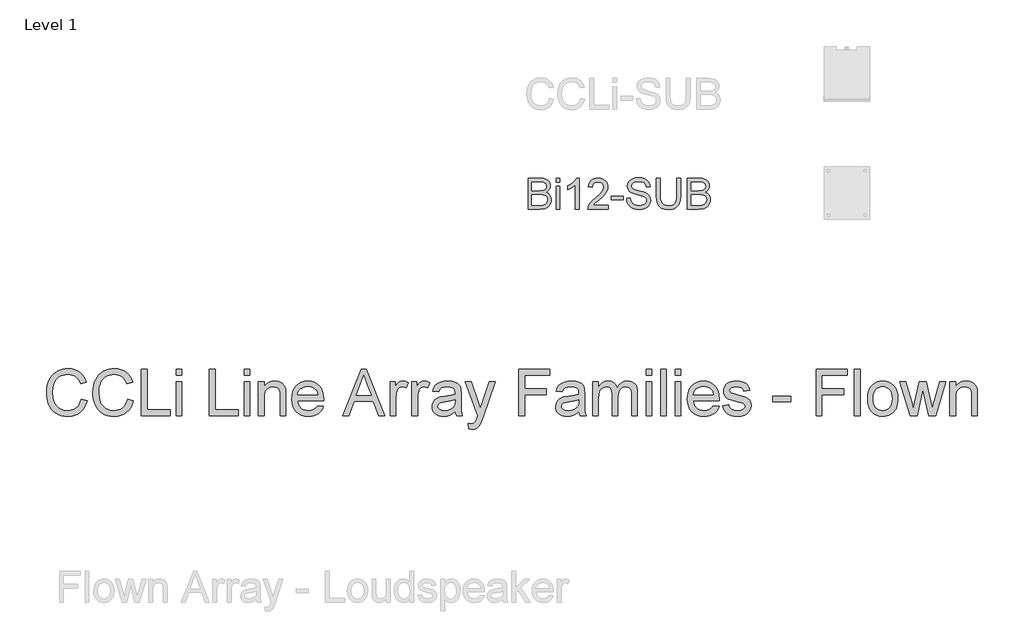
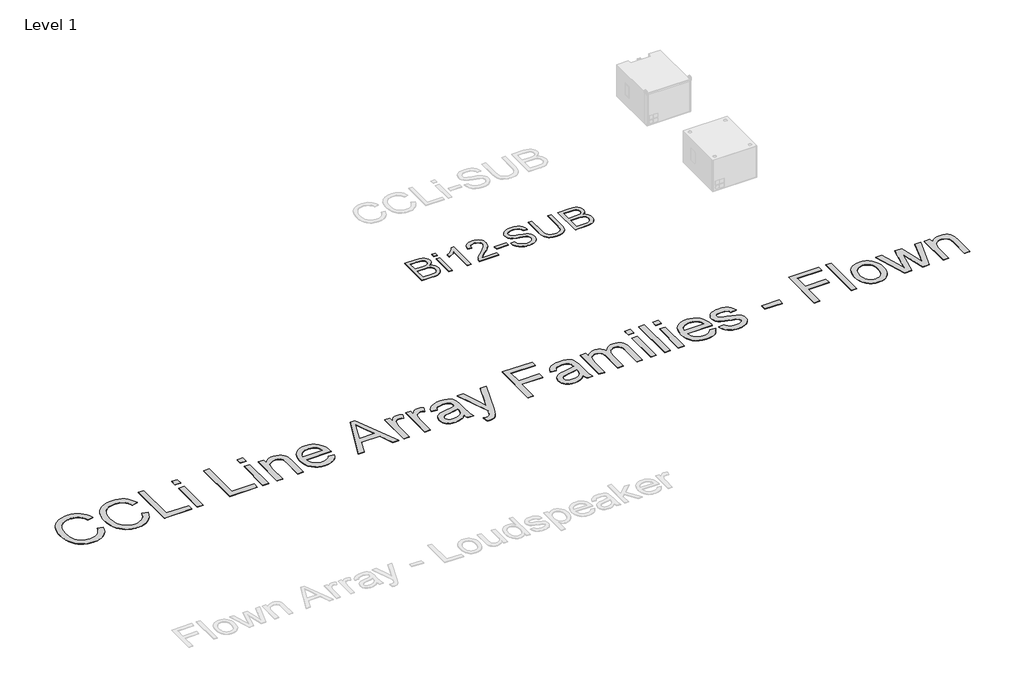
# One storey, part 28 of 31: 2 proxies.
"""IFC4 building model written with IfcOpenShell, lengths in millimetres."""

import ifcopenshell
import ifcopenshell.guid

model = None  # the IFC model being written
_history = None  # IfcOwnerHistory: only IFC2X3 demands one
_inside = {}  # id of a spatial element -> (the spatial element, [elements in it])
_under = {}  # id of a project, library or spatial element -> (it, [spatial elements below it])
_declared = {}  # id of a project -> (the project, [libraries it declares])
_typed = {}  # id of a type object -> (the type object, [elements of that type])
_made_of = {}  # id of a material, layer set ... -> (it, [elements and type objects made of it])


def new_model(schema):
    """Start an empty IFC model of exactly this schema.

    Asked for "IFC4X3", IfcOpenShell would pick the latest addendum, in which some entities
    have other attributes; the version numbers below select the first issue.
    IFC2X3 requires an IfcOwnerHistory on every rooted entity: one is made here for all.
    """
    global model, _history
    if schema == "IFC4X3":
        model = ifcopenshell.file(schema_version=(4, 3, 0, 0))
    else:
        model = ifcopenshell.file(schema=schema)
    _inside.clear()
    _under.clear()
    _declared.clear()
    _typed.clear()
    _made_of.clear()
    _history = None
    if model.schema == "IFC2X3":
        org = make("IfcOrganization", Name="unknown")
        user = make(
            "IfcPersonAndOrganization",
            ThePerson=make("IfcPerson", FamilyName="unknown"),
            TheOrganization=org,
        )
        app = make(
            "IfcApplication",
            ApplicationDeveloper=org,
            Version="unknown",
            ApplicationFullName="unknown",
            ApplicationIdentifier="unknown",
        )
        _history = make(
            "IfcOwnerHistory",
            OwningUser=user,
            OwningApplication=app,
            ChangeAction="ADDED",
            CreationDate=0,
        )
    return model


def make(cls, **values):
    """One entity of the class cls with the attributes given. An attribute that is None is left unset."""
    return model.create_entity(
        cls, **{name: value for name, value in values.items() if value is not None}
    )


def rooted(cls, **values):
    """An entity with a GlobalId (a new one), such as an element, a storey or a relation."""
    return make(cls, GlobalId=ifcopenshell.guid.new(), OwnerHistory=_history, **values)


def si_unit(unit_type, name, prefix=None):
    """IfcSIUnit, for example si_unit("LENGTHUNIT", "METRE", prefix="MILLI")."""
    return make("IfcSIUnit", UnitType=unit_type, Prefix=prefix, Name=name)


def assignment(units):
    """IfcUnitAssignment: the units of a project."""
    return None if units is None else make("IfcUnitAssignment", Units=units)


def point(xyz):
    """IfcCartesianPoint."""
    return None if xyz is None else make("IfcCartesianPoint", Coordinates=xyz)


def direction(xyz):
    """IfcDirection."""
    return None if xyz is None else make("IfcDirection", DirectionRatios=xyz)


def frame(location, z_axis=None, x_axis=None):
    """IfcAxis2Placement3D, a coordinate frame: its origin and axes. An axis left out is left unset."""
    return make(
        "IfcAxis2Placement3D",
        Location=point(location),
        Axis=direction(z_axis),
        RefDirection=direction(x_axis),
    )


def origin():
    """The frame at (0, 0, 0) with its axes left unset."""
    return frame((0.0, 0.0, 0.0))


def origin_with_axes():
    """The frame at (0, 0, 0) with the z axis (0, 0, 1) and the x axis (1, 0, 0) written out."""
    return frame((0.0, 0.0, 0.0), z_axis=(0.0, 0.0, 1.0), x_axis=(1.0, 0.0, 0.0))


def place(relative_to, where):
    """IfcLocalPlacement: puts the frame where relative to a parent placement (None: the world)."""
    return make(
        "IfcLocalPlacement", PlacementRelTo=relative_to, RelativePlacement=where
    )


def context(
    kind, dimensions, precision=None, world=None, true_north=None, identifier=None
):
    """IfcGeometricRepresentationContext, for example the 3D "Model" context."""
    return make(
        "IfcGeometricRepresentationContext",
        ContextIdentifier=identifier,
        ContextType=kind,
        CoordinateSpaceDimension=dimensions,
        Precision=precision,
        WorldCoordinateSystem=world,
        TrueNorth=true_north,
    )


def project(units=None, contexts=None):
    """IfcProject with its units and contexts."""
    return rooted(
        "IfcProject",
        Name="project",
        RepresentationContexts=contexts,
        UnitsInContext=assignment(units),
    )


def spatial(cls, under=None, at=None, **own):
    """A site, building, storey or space (cls), placed at a placement, below another one or the project."""
    s = rooted(cls, ObjectPlacement=at, **own)
    if under is not None:
        _under.setdefault(under.id(), (under, []))[1].append(s)
    return s


def polyline(points):
    """IfcPolyline through the points."""
    return make("IfcPolyline", Points=[point(p) for p in points])


def outline(outer, holes=None, kind="AREA"):
    """IfcArbitraryClosedProfileDef: a profile drawn as a closed curve; with holes, ...WithVoids."""
    if holes is None:
        return make("IfcArbitraryClosedProfileDef", ProfileType=kind, OuterCurve=outer)
    return make(
        "IfcArbitraryProfileDefWithVoids",
        ProfileType=kind,
        OuterCurve=outer,
        InnerCurves=holes,
    )


def extrude(swept, where, along, depth):
    """IfcExtrudedAreaSolid: the profile swept, set in the frame where, extruded along a direction by depth."""
    return make(
        "IfcExtrudedAreaSolid",
        SweptArea=swept,
        Position=where,
        ExtrudedDirection=direction(along),
        Depth=depth,
    )


def shape(context_of_items, identifier, shape_type, items):
    """IfcShapeRepresentation: the items that make up one representation, for example the "Body"."""
    return make(
        "IfcShapeRepresentation",
        ContextOfItems=context_of_items,
        RepresentationIdentifier=identifier,
        RepresentationType=shape_type,
        Items=items,
    )


def made_of(thing, what):
    """Note that an element or type object is made of a material, layer set ...; save() writes the relation."""
    if what is not None:
        _made_of.setdefault(what.id(), (what, []))[1].append(thing)
    return thing


def element(
    cls,
    number,
    at=None,
    inside=None,
    cuts=None,
    type_object=None,
    material=None,
    context=None,
    identifier="Body",
    shape_type=None,
    held_by="IfcProductDefinitionShape",
    body=None,
    shapes=None,
    **own,
):
    """One element of the class cls, such as IfcWall. Its Tag is "e" and its number.

    at: its placement. inside: the storey or other place that contains it. cuts: it is an
    opening in that element (IfcRelVoidsElement). A single representation is given by context,
    identifier, shape_type and body (its items); several are given by shapes. held_by: the class
    of the entity that holds the representations. save() writes the other relations.
    """
    e = rooted(cls, Tag="e%d" % number, ObjectPlacement=at, **own)
    if body is not None:
        shapes = [shape(context, identifier, shape_type, body)]
    if shapes is not None:
        e.Representation = make(held_by, Representations=shapes)
    if inside is not None:
        _inside.setdefault(inside.id(), (inside, []))[1].append(e)
    if cuts is not None:
        rooted(
            "IfcRelVoidsElement", RelatingBuildingElement=cuts, RelatedOpeningElement=e
        )
    if type_object is not None:
        _typed.setdefault(type_object.id(), (type_object, []))[1].append(e)
    return made_of(e, material)


def aggregate(whole, parts):
    """IfcRelAggregates: a whole, such as a stair, and the parts it consists of."""
    return rooted("IfcRelAggregates", RelatingObject=whole, RelatedObjects=parts)


def save(model, path):
    """Write the relations noted so far, then the file.

    IfcRelAggregates (storeys below a building ...), IfcRelContainedInSpatialStructure (elements
    in a storey), IfcRelDefinesByType, IfcRelAssociatesMaterial and IfcRelDeclares: one each for
    every whole, place, type object, material and project.
    """
    for whole, parts in _under.values():
        aggregate(whole, parts)
    for where, things in _inside.values():
        rooted(
            "IfcRelContainedInSpatialStructure",
            RelatedElements=things,
            RelatingStructure=where,
        )
    for kind, things in _typed.values():
        rooted("IfcRelDefinesByType", RelatedObjects=things, RelatingType=kind)
    for what, things in _made_of.values():
        rooted("IfcRelAssociatesMaterial", RelatedObjects=things, RelatingMaterial=what)
    for by, libraries in _declared.values():
        rooted("IfcRelDeclares", RelatingContext=by, RelatedDefinitions=libraries)
    model.write(path)


model = new_model("IFC4")

# Units and contexts
model_context = context("Model", 3, world=origin())
ifc_project = project(units=[si_unit("LENGTHUNIT", "METRE", prefix="MILLI")], contexts=[model_context])

# Site, building, storey
site = spatial("IfcSite", under=ifc_project)
building = spatial("IfcBuilding", under=site)
storey = spatial("IfcBuildingStorey", under=building, Name="Level 1", Elevation=0.0)

# Proxies
placement = place(None, origin())
element("IfcBuildingElementProxy", 1, Name="400mm Arial", ObjectType="400mm Arial", at=placement, inside=storey, context=model_context, shape_type="SweptSolid", body=[
    extrude(outline(polyline([(7821.2923383, 11781.029306), (7821.2923383, 12182.8545466), (7974.6255539, 12182.8545466), (8016.7970933, 12179.8992279), (8049.7225318, 12171.0332718), (8074.9592367, 12156.0359491), (8094.064575, 12134.6865307), (8106.0943162, 12109.5724531), (8110.10423, 12083.2811532), (8106.7319784, 12059.0867807), (8096.6152235, 12036.3394106), (8079.680389, 12016.4369947), (8055.8538984, 12000.7774844), (8084.3157021, 11985.9150518), (8105.3462895, 11963.3025718), (8118.3325239, 11934.436098), (8122.6612688, 11900.8116836), (8119.7059501, 11872.7913383), (8110.839994, 11846.8066067), (8097.6085049, 11824.7091615), (8081.5565872, 11808.3506755), (8061.8994259, 11796.5048752), (8037.8522061, 11787.9454875), (8008.630113, 11782.7583513), (7973.4483315, 11781.029306), (7821.2923383, 11781.029306)]), holes=[polyline([(7871.5204934, 12019.6130426), (7963.2457375, 12019.6130426), (8016.809356, 12023.9295247), (8035.559075, 12031.3730037), (8049.0358188, 12042.5198281), (8057.1660109, 12057.1983197), (8059.8760749, 12075.2368002), (8057.3499519, 12092.7479832), (8049.7715828, 12108.0028233), (8037.4843241, 12119.9099372), (8020.8315325, 12127.3779417), (7995.2759966, 12131.314279), (7956.2805051, 12132.6263915), (7871.5204934, 12132.6263915), (7871.5204934, 12019.6130426)]), polyline([(7871.5204934, 11831.257461), (7974.527452, 11831.257461), (8011.8061609, 11833.2194984), (8043.3459106, 11844.1578563), (8054.9219307, 11853.5878982), (8064.2416079, 11866.4760307), (8070.3852372, 11882.2459056), (8072.4331137, 11900.3211743), (8070.029618, 11921.3149735), (8062.8191309, 11939.3657167), (8050.2253039, 11953.4801226), (8031.6717886, 11962.6649097), (8005.3927514, 11967.7048931), (7969.6223588, 11969.3848875), (7871.5204934, 11969.3848875), (7871.5204934, 11831.257461)])]), origin_with_axes(), (0.0, 0.0, 1.0), 5.0),
    extrude(outline(polyline([(8185.4464626, 11781.029306), (8185.4464626, 12076.119717), (8235.6746177, 12076.119717), (8235.6746177, 11781.029306), (8185.4464626, 11781.029306)])), origin_with_axes(), (0.0, 0.0, 1.0), 5.0),
    extrude(outline(polyline([(8185.4464626, 12132.6263915), (8185.4464626, 12182.8545466), (8235.6746177, 12182.8545466), (8235.6746177, 12132.6263915), (8185.4464626, 12132.6263915)])), origin_with_axes(), (0.0, 0.0, 1.0), 5.0),
    extrude(outline(polyline([(8486.815393, 11781.029306), (8436.587238, 11781.029306), (8436.587238, 12094.1704603), (8415.6179642, 12077.2111003), (8389.0078333, 12060.2762658), (8336.1309278, 12034.9169336), (8336.1309278, 12082.3982364), (8375.5801404, 12103.8580195), (8409.7563778, 12129.3890299), (8436.6976026, 12156.5387212), (8454.4417775, 12182.8545466), (8486.815393, 12182.8545466), (8486.815393, 11781.029306)])), origin_with_axes(), (0.0, 0.0, 1.0), 5.0),
    extrude(outline(polyline([(8863.5265561, 11831.257461), (8863.5265561, 11781.029306), (8599.828742, 11781.029306), (8600.932388, 11798.7121672), (8605.2243446, 11815.6592644), (8617.6219678, 11842.7231166), (8635.7830756, 11868.9776283), (8662.0375874, 11896.4584133), (8698.7154223, 11927.2010854), (8752.9044402, 11975.3445758), (8785.3884203, 12010.8819766), (8801.6120163, 12039.723925), (8807.0198817, 12067.7810585), (8801.9063219, 12092.9319242), (8786.5656427, 12113.8398843), (8762.9844068, 12127.9297647), (8733.149177, 12132.6263915), (8701.8178938, 12128.0401293), (8677.4763684, 12114.2813427), (8661.7678072, 12092.4291522), (8656.3354164, 12063.5626783), (8606.1072614, 12069.8411976), (8610.4268091, 12095.7707469), (8618.2841554, 12118.4261465), (8629.6793002, 12137.8073963), (8644.6122435, 12153.9144963), (8662.7396288, 12166.5757683), (8683.7180996, 12175.619534), (8707.5476558, 12181.0457934), (8734.2282975, 12182.8545466), (8761.1480625, 12180.8434583), (8785.1063775, 12174.8101936), (8806.1032423, 12164.7547524), (8824.1386572, 12150.6771347), (8838.6240107, 12133.6196729), (8848.9706918, 12114.6246992), (8855.1787005, 12093.6922137), (8857.2480367, 12070.8222163), (8855.0162193, 12046.799522), (8848.320767, 12023.1937607), (8836.4381785, 11999.1833291), (8818.6449527, 11973.9466242), (8790.2812509, 11943.8170888), (8746.6872344, 11905.1281657), (8688.9052357, 11856.812997), (8666.2437048, 11831.257461), (8863.5265561, 11831.257461)])), origin_with_axes(), (0.0, 0.0, 1.0), 5.0),
    extrude(outline(polyline([(8901.1976724, 11900.3211743), (8901.1976724, 11950.5493293), (9058.160657, 11950.5493293), (9058.160657, 11900.3211743), (8901.1976724, 11900.3211743)])), origin_with_axes(), (0.0, 0.0, 1.0), 5.0),
    extrude(outline(polyline([(9102.1102927, 11919.1567324), (9152.3384478, 11919.1567324), (9158.1019324, 11891.2835399), (9168.5252556, 11868.8795264), (9184.7856398, 11851.0985633), (9208.0603073, 11837.094522), (9236.5098483, 11828.0078368), (9268.2948527, 11824.9789417), (9296.2784098, 11827.2720728), (9320.7793506, 11834.1514661), (9340.6327157, 11845.0407731), (9354.6735451, 11859.3636455), (9363.0244664, 11875.8079707), (9365.8081069, 11893.0616362), (9363.7234422, 11909.8738434), (9357.4694483, 11924.4051822), (9344.7652567, 11936.8028055), (9323.3299991, 11947.2138659), (9250.1950585, 11966.3927806), (9202.1864581, 11979.0847094), (9171.4683115, 11991.1635016), (9146.4645986, 12008.0615479), (9128.7449492, 12028.5403123), (9118.1867359, 12052.1583364), (9114.6673315, 12078.4741618), (9119.0206018, 12107.8924587), (9132.0804126, 12135.3241928), (9153.5034074, 12158.5743349), (9182.9462298, 12175.4478557), (9218.2874268, 12185.7117634), (9257.4055456, 12189.133066), (9299.7855515, 12185.5523479), (9336.8680566, 12174.8101936), (9367.3286858, 12157.1273324), (9389.8430639, 12132.7244934), (9404.0923598, 12103.1222555), (9409.7577425, 12069.8411976), (9359.5295875, 12069.8411976), (9350.3080121, 12099.8113175), (9341.9448281, 12111.6693805), (9331.0800465, 12121.4427788), (9301.0363502, 12134.5393779), (9259.3675829, 12138.9049109), (9216.7177969, 12134.5884288), (9200.4144932, 12129.1928262), (9187.4589156, 12121.6389826), (9170.5363438, 12102.5826952), (9164.8954866, 12079.9456898), (9168.8931376, 12060.6441478), (9180.8860906, 12045.1195276), (9209.2375297, 12031.2381136), (9262.8992501, 12017.0623941), (9318.2777531, 12003.5979131), (9351.7795401, 11991.8502147), (9380.4130221, 11973.6277932), (9400.3890144, 11951.1379405), (9412.1244501, 11924.6259114), (9416.0362619, 11894.3369605), (9411.5358389, 11863.3735592), (9398.0345696, 11834.2495679), (9376.0842773, 11809.1845413), (9346.2367847, 11790.3980341), (9310.3437647, 11778.6625985), (9270.25689, 11774.7507866), (9221.0465418, 11778.9691668), (9180.5427341, 11791.6243074), (9148.2794831, 11812.7652594), (9123.790805, 11842.4410737), (9108.069981, 11878.5916111), (9102.1102927, 11919.1567324)])), origin_with_axes(), (0.0, 0.0, 1.0), 5.0),
    extrude(outline(polyline([(9755.0763087, 12182.8545466), (9805.3044638, 12182.8545466), (9805.3044638, 11951.0398387), (9801.8954239, 11896.7527189), (9791.6683045, 11854.9490615), (9783.4829301, 11837.9958329), (9772.5629662, 11822.6980733), (9742.5192699, 11797.068961), (9723.3771434, 11787.3047597), (9701.4636393, 11780.3303302), (9649.3224978, 11774.7507866), (9598.3217905, 11779.6068289), (9557.5482027, 11794.1749559), (9540.993513, 11804.9753582), (9526.9894717, 11817.9523956), (9515.5360789, 11833.1060681), (9506.6333346, 11850.4363757), (9495.1922046, 11894.0058667), (9491.3784945, 11951.0398387), (9491.3784945, 12182.8545466), (9541.6066496, 12182.8545466), (9541.6066496, 11952.8056722), (9544.0837217, 11907.6665514), (9551.514938, 11876.2371663), (9564.979419, 11854.4708149), (9585.5562853, 11838.3207954), (9612.3871455, 11828.3144051), (9644.6136083, 11824.9789417), (9672.2967284, 11826.6282793), (9695.7001547, 11831.5762921), (9714.823887, 11839.8229802), (9729.6679256, 11851.3683434), (9740.7840932, 11867.6042022), (9748.7242129, 11889.9223765), (9753.4882847, 11918.3228666), (9755.0763087, 11952.8056722), (9755.0763087, 12182.8545466)])), origin_with_axes(), (0.0, 0.0, 1.0), 5.0),
    extrude(outline(polyline([(9893.2037351, 11781.029306), (9893.2037351, 12182.8545466), (10046.5369507, 12182.8545466), (10088.7084901, 12179.8992279), (10121.6339287, 12171.0332718), (10146.8706336, 12156.0359491), (10165.9759718, 12134.6865307), (10178.0057131, 12109.5724531), (10182.0156268, 12083.2811532), (10178.6433752, 12059.0867807), (10168.5266203, 12036.3394106), (10151.5917858, 12016.4369947), (10127.7652953, 12000.7774844), (10156.227099, 11985.9150518), (10177.2576864, 11963.3025718), (10190.2439208, 11934.436098), (10194.5726656, 11900.8116836), (10191.6173469, 11872.7913383), (10182.7513908, 11846.8066067), (10169.5199017, 11824.7091615), (10153.467984, 11808.3506755), (10133.8108227, 11796.5048752), (10109.763603, 11787.9454875), (10080.5415098, 11782.7583513), (10045.3597283, 11781.029306), (9893.2037351, 11781.029306)]), holes=[polyline([(9943.4318902, 11831.257461), (10046.4388489, 11831.257461), (10083.7175577, 11833.2194984), (10115.2573074, 11844.1578563), (10126.8333275, 11853.5878982), (10136.1530048, 11866.4760307), (10142.2966341, 11882.2459056), (10144.3445105, 11900.3211743), (10141.9410148, 11921.3149735), (10134.7305277, 11939.3657167), (10122.1367007, 11953.4801226), (10103.5831855, 11962.6649097), (10077.3041483, 11967.7048931), (10041.5337556, 11969.3848875), (9943.4318902, 11969.3848875), (9943.4318902, 11831.257461)]), polyline([(9943.4318902, 12019.6130426), (10035.1571343, 12019.6130426), (10088.7207528, 12023.9295247), (10107.4704719, 12031.3730037), (10120.9472156, 12042.5198281), (10129.0774077, 12057.1983197), (10131.7874717, 12075.2368002), (10129.2613487, 12092.7479832), (10121.6829796, 12108.0028233), (10109.395721, 12119.9099372), (10092.7429293, 12127.3779417), (10067.1873934, 12131.314279), (10028.1919019, 12132.6263915), (9943.4318902, 12132.6263915), (9943.4318902, 12019.6130426)])]), origin_with_axes(), (0.0, 0.0, 1.0), 5.0),
])
element("IfcBuildingElementProxy", 2, Name="600mm Arial", ObjectType="600mm Arial", at=placement, inside=storey, context=model_context, shape_type="SweptSolid", body=[
    extrude(outline(polyline([(2002.9783305, 9304.2193341), (2078.3205631, 9284.7951648), (2063.4121452, 9237.9407942), (2043.5557146, 9197.0001266), (2018.751271, 9161.9731622), (1988.9988147, 9132.8599008), (1954.9697301, 9109.9730422), (1917.335402, 9093.625286), (1876.0958304, 9083.8166323), (1831.2510151, 9080.5470811), (1785.3071525, 9083.0210875), (1743.8606472, 9090.4431067), (1706.9114993, 9102.8131388), (1674.4597088, 9120.1311837), (1646.0592188, 9142.1397241), (1621.2639723, 9168.5812425), (1600.0739694, 9199.455739), (1582.48921, 9234.7632134), (1568.6798396, 9272.9769557), (1558.8160036, 9312.5702554), (1552.897702, 9353.5431126), (1550.9249348, 9395.8955273), (1553.1552194, 9441.3381508), (1559.8460732, 9483.782536), (1570.9974962, 9523.2286829), (1586.6094884, 9559.6765916), (1606.3325618, 9592.5238552), (1629.8172287, 9621.1680671), (1657.063489, 9645.6092271), (1688.0713426, 9665.8473354), (1721.7877275, 9681.716845), (1757.1595813, 9693.0522089), (1794.1869041, 9699.8534273), (1832.8696959, 9702.1205001), (1875.9624731, 9699.1866412), (1915.4775979, 9690.3850645), (1951.4150703, 9675.7157699), (1983.7748903, 9655.1787575), (2012.023629, 9629.3166533), (2035.6278576, 9598.6720831), (2054.5875759, 9563.2450469), (2068.902784, 9523.0355449), (1993.5605514, 9505.0829035), (1981.6963571, 9534.7111997), (1967.4409298, 9560.0260795), (1950.7942695, 9581.0275429), (1931.7563762, 9597.7155899), (1910.2168854, 9610.4305113), (1886.0654324, 9619.5125981), (1859.3020173, 9624.9618502), (1829.92664, 9626.7782675), (1796.1274817, 9624.7641136), (1765.216197, 9618.7216518), (1737.192786, 9608.6508822), (1712.0572487, 9594.5518047), (1690.1268833, 9577.0590159), (1671.7189879, 9556.807112), (1656.8335627, 9533.7960932), (1645.4706076, 9508.0259595), (1631.0680275, 9452.8804484), (1626.2671674, 9396.0426801), (1631.9509443, 9326.4394066), (1639.0556653, 9295.1694371), (1649.0022747, 9266.2539122), (1661.951721, 9240.2676478), (1678.0649524, 9217.7854594), (1697.3419689, 9198.8073469), (1719.7827706, 9183.3333105), (1744.2975071, 9171.3265619), (1769.7963278, 9162.7503129), (1796.279233, 9157.6045635), (1823.7462224, 9155.8893137), (1856.5015156, 9158.2253643), (1886.6356495, 9165.2335164), (1914.1486242, 9176.9137697), (1939.0404397, 9193.2661244), (1960.7224848, 9214.217004), (1978.6061483, 9239.6928322), (1992.6914302, 9269.6936089), (2002.9783305, 9304.2193341)])), origin_with_axes(), (0.0, 0.0, 1.0), 5.0),
    extrude(outline(polyline([(2605.7161914, 9304.2193341), (2681.058424, 9284.7951648), (2666.1500061, 9237.9407942), (2646.2935755, 9197.0001266), (2621.4891319, 9161.9731622), (2591.7366756, 9132.8599008), (2557.707591, 9109.9730422), (2520.0732629, 9093.625286), (2478.8336913, 9083.8166323), (2433.988876, 9080.5470811), (2388.0450134, 9083.0210875), (2346.5985081, 9090.4431067), (2309.6493602, 9102.8131388), (2277.1975697, 9120.1311837), (2248.7970797, 9142.1397241), (2224.0018332, 9168.5812425), (2202.8118303, 9199.455739), (2185.2270709, 9234.7632134), (2171.4177005, 9272.9769557), (2161.5538645, 9312.5702554), (2155.6355629, 9353.5431126), (2153.6627957, 9395.8955273), (2155.8930803, 9441.3381508), (2162.5839341, 9483.782536), (2173.7353571, 9523.2286829), (2189.3473492, 9559.6765916), (2209.0704227, 9592.5238552), (2232.5550896, 9621.1680671), (2259.8013499, 9645.6092271), (2290.8092035, 9665.8473354), (2324.5255884, 9681.716845), (2359.8974422, 9693.0522089), (2396.924765, 9699.8534273), (2435.6075568, 9702.1205001), (2478.700334, 9699.1866412), (2518.2154588, 9690.3850645), (2554.1529312, 9675.7157699), (2586.5127512, 9655.1787575), (2614.7614899, 9629.3166533), (2638.3657185, 9598.6720831), (2657.3254368, 9563.2450469), (2671.6406449, 9523.0355449), (2596.2984123, 9505.0829035), (2584.434218, 9534.7111997), (2570.1787907, 9560.0260795), (2553.5321304, 9581.0275429), (2534.4942371, 9597.7155899), (2512.9547463, 9610.4305113), (2488.8032933, 9619.5125981), (2462.0398782, 9624.9618502), (2432.6645009, 9626.7782675), (2398.8653426, 9624.7641136), (2367.9540579, 9618.7216518), (2339.9306469, 9608.6508822), (2314.7951096, 9594.5518047), (2292.8647442, 9577.0590159), (2274.4568488, 9556.807112), (2259.5714236, 9533.7960932), (2248.2084685, 9508.0259595), (2233.8058884, 9452.8804484), (2229.0050283, 9396.0426801), (2234.6888052, 9326.4394066), (2241.7935262, 9295.1694371), (2251.7401356, 9266.2539122), (2264.6895819, 9240.2676478), (2280.8028132, 9217.7854594), (2300.0798298, 9198.8073469), (2322.5206315, 9183.3333105), (2347.035368, 9171.3265619), (2372.5341887, 9162.7503129), (2399.0170939, 9157.6045635), (2426.4840833, 9155.8893137), (2459.2393765, 9158.2253643), (2489.3735104, 9165.2335164), (2516.8864851, 9176.9137697), (2541.7783006, 9193.2661244), (2563.4603457, 9214.217004), (2581.3440092, 9239.6928322), (2595.4292911, 9269.6936089), (2605.7161914, 9304.2193341)])), origin_with_axes(), (0.0, 0.0, 1.0), 5.0),
    extrude(outline(polyline([(2784.6539938, 9089.9648601), (2784.6539938, 9692.702721), (2859.9962265, 9692.702721), (2859.9962265, 9165.3070928), (3161.3651569, 9165.3070928), (3161.3651569, 9089.9648601), (2784.6539938, 9089.9648601)])), origin_with_axes(), (0.0, 0.0, 1.0), 5.0),
    extrude(outline(polyline([(3236.7073895, 9089.9648601), (3236.7073895, 9532.6004767), (3312.0496221, 9532.6004767), (3312.0496221, 9089.9648601), (3236.7073895, 9089.9648601)])), origin_with_axes(), (0.0, 0.0, 1.0), 5.0),
    extrude(outline(polyline([(3236.7073895, 9617.3604884), (3236.7073895, 9692.702721), (3312.0496221, 9692.702721), (3312.0496221, 9617.3604884), (3236.7073895, 9617.3604884)])), origin_with_axes(), (0.0, 0.0, 1.0), 5.0),
    extrude(outline(polyline([(3669.925227, 9089.9648601), (3669.925227, 9692.702721), (3745.2674596, 9692.702721), (3745.2674596, 9165.3070928), (4046.6363901, 9165.3070928), (4046.6363901, 9089.9648601), (3669.925227, 9089.9648601)])), origin_with_axes(), (0.0, 0.0, 1.0), 5.0),
    extrude(outline(polyline([(4121.9786227, 9089.9648601), (4121.9786227, 9532.6004767), (4197.3208553, 9532.6004767), (4197.3208553, 9089.9648601), (4121.9786227, 9089.9648601)])), origin_with_axes(), (0.0, 0.0, 1.0), 5.0),
    extrude(outline(polyline([(4121.9786227, 9617.3604884), (4121.9786227, 9692.702721), (4197.3208553, 9692.702721), (4197.3208553, 9617.3604884), (4121.9786227, 9617.3604884)])), origin_with_axes(), (0.0, 0.0, 1.0), 5.0),
    extrude(outline(polyline([(4310.3342042, 9089.9648601), (4310.3342042, 9532.6004767), (4385.6764369, 9532.6004767), (4385.6764369, 9470.7963016), (4411.8512408, 9501.9559065), (4443.2867573, 9524.2127673), (4479.9829863, 9537.5668837), (4521.9399279, 9542.0182558), (4559.0776153, 9538.4314064), (4593.0883057, 9527.670858), (4621.4520076, 9511.07938), (4641.6487291, 9489.9997417), (4655.3523334, 9464.4871253), (4664.2366836, 9434.5967132), (4668.2098091, 9361.7560782), (4668.2098091, 9089.9648601), (4592.8675765, 9089.9648601), (4592.8675765, 9351.6025351), (4590.6970728, 9390.5612384), (4584.1855615, 9418.2627526), (4572.1742143, 9438.1099863), (4553.5042031, 9453.5058478), (4529.5734793, 9463.3834793), (4501.7799945, 9466.6760232), (4478.902333, 9464.8274162), (4457.6525492, 9459.2815951), (4438.0306433, 9450.03856), (4420.0366152, 9437.0983108), (4405.0040372, 9418.9893196), (4394.2664814, 9394.2400584), (4387.823948, 9362.8505271), (4385.6764369, 9324.8207259), (4385.6764369, 9089.9648601), (4310.3342042, 9089.9648601)])), origin_with_axes(), (0.0, 0.0, 1.0), 5.0),
    extrude(outline(polyline([(5081.7091717, 9221.8137672), (5155.5798764, 9212.3959881), (5144.2537094, 9182.8090787), (5128.963614, 9156.7354423), (5109.7095901, 9134.1750789), (5086.4916377, 9115.1279886), (5059.54888, 9099.9988416), (5029.1204405, 9089.192308), (4995.2063191, 9082.7083878), (4957.8065158, 9080.5470811), (4911.0579112, 9084.2764848), (4869.4044723, 9095.464696), (4832.846199, 9114.1117146), (4801.3830914, 9140.2175407), (4776.0820072, 9173.0556073), (4758.0098042, 9211.8993474), (4747.1664824, 9256.7487612), (4743.5520418, 9307.6038485), (4747.2032706, 9360.1833827), (4758.156957, 9406.527317), (4776.413101, 9446.6356515), (4801.9717026, 9480.5083862), (4833.3520368, 9507.4189542), (4869.0733785, 9526.6407884), (4909.1357278, 9538.173889), (4953.5390846, 9542.0182558), (4996.5123002, 9538.183086), (5035.3744344, 9526.6775766), (5070.1254874, 9507.5017276), (5100.7654591, 9480.655539), (5125.7768362, 9446.8563807), (5143.6421056, 9406.8216226), (5154.3612673, 9360.5512646), (5157.9343211, 9308.0453069), (5157.4928627, 9287.7382208), (4818.8942744, 9287.7382208), (4823.2582745, 9257.6730647), (4831.9356911, 9231.3419109), (4844.9265241, 9208.7447593), (4862.2307734, 9189.88161), (4882.891946, 9175.0099804), (4905.9535485, 9164.3873878), (4931.4155811, 9158.0138322), (4959.2780437, 9155.8893137), (4999.3771812, 9159.825651), (5033.1487484, 9171.6346631), (5060.5927452, 9192.0521138), (5081.7091717, 9221.8137672)]), holes=[polyline([(4818.8942744, 9363.0804534), (5082.5920885, 9363.0804534), (5072.4017572, 9402.8852852), (5063.6369687, 9418.5386641), (5052.4257649, 9431.3593517), (5031.8795555, 9446.8103955), (5008.5006547, 9457.8468553), (4982.2890625, 9464.4687312), (4953.244779, 9466.6760232), (4926.7526768, 9464.9147882), (4902.4586696, 9459.631083), (4880.3627572, 9450.8249077), (4860.4649398, 9438.4962624), (4843.7676958, 9423.215364), (4831.2735035, 9405.5524297), (4822.982363, 9385.5074595), (4818.8942744, 9363.0804534)])]), origin_with_axes(), (0.0, 0.0, 1.0), 5.0),
    extrude(outline(polyline([(5408.0940778, 9089.9648601), (5648.6889027, 9692.702721), (5712.8475227, 9692.702721), (5953.2951947, 9089.9648601), (5873.6855309, 9089.9648601), (5804.8180214, 9278.3204417), (5556.4240983, 9278.3204417), (5487.5565888, 9089.9648601), (5408.0940778, 9089.9648601)]), holes=[polyline([(5584.0888243, 9353.6626743), (5777.3004482, 9353.6626743), (5722.8539129, 9501.8455419), (5680.6210599, 9617.3604884), (5643.0970964, 9514.7949882), (5584.0888243, 9353.6626743)])]), origin_with_axes(), (0.0, 0.0, 1.0), 5.0),
    extrude(outline(polyline([(6024.3699962, 9089.9648601), (6024.3699962, 9532.6004767), (6090.2944497, 9532.6004767), (6090.2944497, 9467.1174816), (6114.6482378, 9505.0829035), (6137.0890395, 9527.4501288), (6159.6034176, 9538.3762241), (6184.1779349, 9542.0182558), (6221.7018984, 9536.2057203), (6259.8144731, 9518.7681137), (6234.6513446, 9451.2249794), (6208.163841, 9462.8132623), (6181.6763373, 9466.6760232), (6159.1803533, 9462.9604151), (6139.0756023, 9451.8135906), (6122.8336122, 9434.0816784), (6111.925911, 9410.6108071), (6102.7656493, 9368.5251069), (6099.7122288, 9322.6134339), (6099.7122288, 9089.9648601), (6024.3699962, 9089.9648601)])), origin_with_axes(), (0.0, 0.0, 1.0), 5.0),
    extrude(outline(polyline([(6306.9033685, 9089.9648601), (6306.9033685, 9532.6004767), (6372.827822, 9532.6004767), (6372.827822, 9467.1174816), (6397.1816101, 9505.0829035), (6419.6224118, 9527.4501288), (6442.1367899, 9538.3762241), (6466.7113072, 9542.0182558), (6504.2352707, 9536.2057203), (6542.3478454, 9518.7681137), (6517.1847169, 9451.2249794), (6490.6972133, 9462.8132623), (6464.2097096, 9466.6760232), (6441.7137256, 9462.9604151), (6421.6089746, 9451.8135906), (6405.3669845, 9434.0816784), (6394.4592833, 9410.6108071), (6385.2990216, 9368.5251069), (6382.2456011, 9322.6134339), (6382.2456011, 9089.9648601), (6306.9033685, 9089.9648601)])), origin_with_axes(), (0.0, 0.0, 1.0), 5.0),
    extrude(outline(polyline([(6871.9701131, 9146.4715346), (6835.9728598, 9115.6062352), (6798.9087488, 9095.4095137), (6759.9316514, 9084.2626892), (6718.1954391, 9080.5470811), (6684.6491996, 9082.7819642), (6655.2324356, 9089.4866136), (6629.945147, 9100.6610292), (6608.7873337, 9116.305211), (6592.0808926, 9135.4258777), (6580.1477204, 9157.0297479), (6572.9878171, 9181.1168215), (6570.6011826, 9207.6870986), (6574.2064262, 9238.92028), (6585.0221568, 9267.2839818), (6601.7056053, 9291.5641935), (6622.9140023, 9310.5469045), (6647.8380075, 9324.8943023), (6675.6682804, 9335.2685745), (6740.85697, 9346.59934), (6817.8914598, 9358.5187166), (6871.5286547, 9372.4982324), (6871.9701131, 9389.2736514), (6866.7829769, 9422.8980658), (6860.2990568, 9435.3508713), (6851.2215685, 9444.8974091), (6835.5314014, 9454.4255528), (6816.4199318, 9461.2313697), (6767.9330848, 9466.6760232), (6723.0514814, 9463.0523856), (6691.7079354, 9452.1814726), (6670.3339915, 9432.0767216), (6655.3611943, 9400.7515697), (6580.0189617, 9410.1693487), (6593.0971666, 9451.3721322), (6612.6133065, 9483.7457478), (6640.3883971, 9508.5042061), (6678.2434544, 9526.8615176), (6724.5414035, 9538.2290713), (6777.6451695, 9542.0182558), (6828.5784317, 9538.6705297), (6868.9534807, 9528.6273512), (6899.3957158, 9513.5257953), (6920.5305364, 9495.0029368), (6934.5468404, 9472.1022826), (6943.6335257, 9443.8673395), (6947.3123457, 9377.942886), (6947.3123457, 9284.2065536), (6951.1383184, 9153.3141397), (6956.8037011, 9120.9589182), (6966.1479038, 9089.9648601), (6890.8056712, 9089.9648601), (6878.7391418, 9116.1580582), (6871.9701131, 9146.4715346)]), holes=[polyline([(6871.9701131, 9297.1559998), (6821.3495505, 9284.6112238), (6750.4219018, 9274.0530105), (6685.6010943, 9261.8393283), (6668.7337048, 9253.488407), (6656.2441111, 9241.9737006), (6648.5185892, 9228.1781257), (6645.9434152, 9212.9845993), (6651.5536156, 9190.5805858), (6668.3842169, 9172.2232743), (6696.0673371, 9159.9728038), (6734.2350941, 9155.8893137), (6774.7021135, 9160.3958681), (6810.4602435, 9173.9155314), (6839.4493447, 9193.8363415), (6859.609278, 9217.5463361), (6868.5488105, 9241.9737006), (6871.5286547, 9275.8188441), (6871.9701131, 9297.1559998)])]), origin_with_axes(), (0.0, 0.0, 1.0), 5.0),
    extrude(outline(polyline([(7050.9079155, 8920.4448368), (7041.4901364, 8992.9911662), (7079.7498639, 8986.3692903), (7099.8730091, 8988.4478236), (7115.5079939, 8994.6834234), (7127.6848879, 9004.6346314), (7137.4337608, 9017.8599891), (7158.0351525, 9073.336594), (7163.9212644, 9091.5835409), (7003.8190201, 9532.6004767), (7083.1343783, 9532.6004767), (7168.1886956, 9286.7081512), (7197.766408, 9188.4100821), (7227.3441204, 9275.3773857), (7314.6057297, 9532.6004767), (7393.3324766, 9532.6004767), (7239.263497, 9079.3698587), (7199.237936, 8981.0717896), (7178.7469088, 8949.6914554), (7155.5335549, 8927.9496295), (7128.6045929, 8915.2577006), (7096.9667413, 8911.0270577), (7075.0777626, 8913.3815025), (7050.9079155, 8920.4448368)])), origin_with_axes(), (0.0, 0.0, 1.0), 5.0),
    extrude(outline(polyline([(7700.7346718, 9089.9648601), (7700.7346718, 9692.702721), (8105.6991721, 9692.702721), (8105.6991721, 9617.3604884), (7776.0769044, 9617.3604884), (7776.0769044, 9438.422686), (8058.6102767, 9438.422686), (8058.6102767, 9363.0804534), (7776.0769044, 9363.0804534), (7776.0769044, 9089.9648601), (7700.7346718, 9089.9648601)])), origin_with_axes(), (0.0, 0.0, 1.0), 5.0),
    extrude(outline(polyline([(8482.4103351, 9146.4715346), (8446.4130819, 9115.6062352), (8409.3489709, 9095.4095137), (8370.3718735, 9084.2626892), (8328.6356612, 9080.5470811), (8295.0894217, 9082.7819642), (8265.6726577, 9089.4866136), (8240.385369, 9100.6610292), (8219.2275558, 9116.305211), (8202.5211147, 9135.4258777), (8190.5879425, 9157.0297479), (8183.4280391, 9181.1168215), (8181.0414047, 9207.6870986), (8184.6466482, 9238.92028), (8195.4623789, 9267.2839818), (8212.1458274, 9291.5641935), (8233.3542244, 9310.5469045), (8258.2782296, 9324.8943023), (8286.1085025, 9335.2685745), (8351.2971921, 9346.59934), (8428.3316819, 9358.5187166), (8481.9688767, 9372.4982324), (8482.4103351, 9389.2736514), (8477.223199, 9422.8980658), (8470.7392788, 9435.3508713), (8461.6617906, 9444.8974091), (8445.9716235, 9454.4255528), (8426.8601539, 9461.2313697), (8378.3733069, 9466.6760232), (8333.4917035, 9463.0523856), (8302.1481575, 9452.1814726), (8280.7742136, 9432.0767216), (8265.8014164, 9400.7515697), (8190.4591838, 9410.1693487), (8203.5373887, 9451.3721322), (8223.0535285, 9483.7457478), (8250.8286192, 9508.5042061), (8288.6836765, 9526.8615176), (8334.9816256, 9538.2290713), (8388.0853916, 9542.0182558), (8439.0186538, 9538.6705297), (8479.3937028, 9528.6273512), (8509.8359379, 9513.5257953), (8530.9707585, 9495.0029368), (8544.9870625, 9472.1022826), (8554.0737478, 9443.8673395), (8557.7525678, 9377.942886), (8557.7525678, 9284.2065536), (8561.5785405, 9153.3141397), (8567.2439232, 9120.9589182), (8576.5881259, 9089.9648601), (8501.2458933, 9089.9648601), (8489.1793639, 9116.1580582), (8482.4103351, 9146.4715346)]), holes=[polyline([(8482.4103351, 9297.1559998), (8431.7897726, 9284.6112238), (8360.8621239, 9274.0530105), (8296.0413164, 9261.8393283), (8279.1739269, 9253.488407), (8266.6843332, 9241.9737006), (8258.9588113, 9228.1781257), (8256.3836373, 9212.9845993), (8261.9938377, 9190.5805858), (8278.824439, 9172.2232743), (8306.5075591, 9159.9728038), (8344.6753161, 9155.8893137), (8385.1423356, 9160.3958681), (8420.9004655, 9173.9155314), (8449.8895668, 9193.8363415), (8470.0495001, 9217.5463361), (8478.9890326, 9241.9737006), (8481.9688767, 9275.8188441), (8482.4103351, 9297.1559998)])]), origin_with_axes(), (0.0, 0.0, 1.0), 5.0),
    extrude(outline(polyline([(8661.3481376, 9089.9648601), (8661.3481376, 9532.6004767), (8736.6903702, 9532.6004767), (8736.6903702, 9459.7598417), (8759.3519011, 9493.2187092), (8788.4881551, 9519.4303013), (8823.1058509, 9536.3712672), (8862.211707, 9542.0182558), (8904.1134662, 9536.2609026), (8921.9465459, 9529.0642111), (8937.7010924, 9518.9888429), (8962.7906444, 9491.342511), (8979.1981814, 9454.462341), (9006.6605724, 9492.7680537), (9037.9857243, 9520.1292771), (9073.1736371, 9536.5460111), (9112.2243109, 9542.0182558), (9142.386036, 9539.741986), (9168.859744, 9532.9131764), (9191.6454351, 9521.5318272), (9210.7431092, 9505.5979383), (9225.8400666, 9484.9275687), (9236.6236076, 9459.3367774), (9243.0937321, 9428.8255644), (9245.2504403, 9393.3939298), (9245.2504403, 9089.9648601), (9169.9082077, 9089.9648601), (9169.9082077, 9361.0203142), (9168.1607683, 9398.59946), (9162.9184498, 9423.9281354), (9153.0960005, 9441.2737714), (9137.6081686, 9454.9037994), (9117.6873585, 9463.7329672), (9094.5659751, 9466.6760232), (9073.2150238, 9464.790628), (9053.7494678, 9459.1344423), (9036.1693069, 9449.7074662), (9020.4745413, 9436.5096996), (9007.5664818, 9419.1548665), (8998.3464393, 9397.2566907), (8992.8144138, 9370.8151723), (8990.9704053, 9339.8303113), (8990.9704053, 9089.9648601), (8915.6281727, 9089.9648601), (8915.6281727, 9369.4080237), (8911.268771, 9412.0087587), (8905.819519, 9428.7289954), (8898.1905661, 9442.3958115), (8888.0784097, 9453.0184041), (8875.1795473, 9460.6059703), (8859.4939787, 9465.15851), (8841.021704, 9466.6760232), (8811.9958146, 9462.6293213), (8785.2507936, 9450.4892154), (8763.1778739, 9430.5500113), (8748.1682885, 9403.1060144), (8739.5598498, 9365.0302279), (8736.6903702, 9313.1956548), (8736.6903702, 9089.9648601), (8661.3481376, 9089.9648601)])), origin_with_axes(), (0.0, 0.0, 1.0), 5.0),
    extrude(outline(polyline([(9358.2637893, 9617.3604884), (9358.2637893, 9692.702721), (9433.6060219, 9692.702721), (9433.6060219, 9617.3604884), (9358.2637893, 9617.3604884)])), origin_with_axes(), (0.0, 0.0, 1.0), 5.0),
    extrude(outline(polyline([(9358.2637893, 9089.9648601), (9358.2637893, 9532.6004767), (9433.6060219, 9532.6004767), (9433.6060219, 9089.9648601), (9358.2637893, 9089.9648601)])), origin_with_axes(), (0.0, 0.0, 1.0), 5.0),
    extrude(outline(polyline([(9546.6193708, 9089.9648601), (9546.6193708, 9692.702721), (9621.9616034, 9692.702721), (9621.9616034, 9089.9648601), (9546.6193708, 9089.9648601)])), origin_with_axes(), (0.0, 0.0, 1.0), 5.0),
    extrude(outline(polyline([(9734.9749523, 9089.9648601), (9734.9749523, 9532.6004767), (9810.3171849, 9532.6004767), (9810.3171849, 9089.9648601), (9734.9749523, 9089.9648601)])), origin_with_axes(), (0.0, 0.0, 1.0), 5.0),
    extrude(outline(polyline([(9734.9749523, 9617.3604884), (9734.9749523, 9692.702721), (9810.3171849, 9692.702721), (9810.3171849, 9617.3604884), (9734.9749523, 9617.3604884)])), origin_with_axes(), (0.0, 0.0, 1.0), 5.0),
    extrude(outline(polyline([(10233.2343266, 9221.8137672), (10307.1050312, 9212.3959881), (10295.7788643, 9182.8090787), (10280.4887689, 9156.7354423), (10261.2347449, 9134.1750789), (10238.0167925, 9115.1279886), (10211.0740349, 9099.9988416), (10180.6455954, 9089.192308), (10146.7314739, 9082.7083878), (10109.3316706, 9080.5470811), (10062.5830661, 9084.2764848), (10020.9296272, 9095.464696), (9984.3713539, 9114.1117146), (9952.9082463, 9140.2175407), (9927.607162, 9173.0556073), (9909.534959, 9211.8993474), (9898.6916372, 9256.7487612), (9895.0771966, 9307.6038485), (9898.7284254, 9360.1833827), (9909.6821118, 9406.527317), (9927.9382558, 9446.6356515), (9953.4968575, 9480.5083862), (9984.8771916, 9507.4189542), (10020.5985334, 9526.6407884), (10060.6608826, 9538.173889), (10105.0642395, 9542.0182558), (10148.037455, 9538.183086), (10186.8995893, 9526.6775766), (10221.6506423, 9507.5017276), (10252.2906139, 9480.655539), (10277.3019911, 9446.8563807), (10295.1672605, 9406.8216226), (10305.8864221, 9360.5512646), (10309.459476, 9308.0453069), (10309.0180176, 9287.7382208), (9970.4194292, 9287.7382208), (9974.7834294, 9257.6730647), (9983.460846, 9231.3419109), (9996.4516789, 9208.7447593), (10013.7559283, 9189.88161), (10034.4171008, 9175.0099804), (10057.4787034, 9164.3873878), (10082.940736, 9158.0138322), (10110.8031986, 9155.8893137), (10150.9023361, 9159.825651), (10184.6739032, 9171.6346631), (10212.1179001, 9192.0521138), (10233.2343266, 9221.8137672)]), holes=[polyline([(9970.4194292, 9363.0804534), (10234.1172434, 9363.0804534), (10223.9269121, 9402.8852852), (10215.1621236, 9418.5386641), (10203.9509198, 9431.3593517), (10183.4047103, 9446.8103955), (10160.0258095, 9457.8468553), (10133.8142174, 9464.4687312), (10104.7699339, 9466.6760232), (10078.2778317, 9464.9147882), (10053.9838244, 9459.631083), (10031.8879121, 9450.8249077), (10011.9900947, 9438.4962624), (9995.2928506, 9423.215364), (9982.7986584, 9405.5524297), (9974.5075179, 9385.5074595), (9970.4194292, 9363.0804534)])]), origin_with_axes(), (0.0, 0.0, 1.0), 5.0),
    extrude(outline(polyline([(10356.5483714, 9221.8137672), (10431.890604, 9231.2315463), (10436.4431437, 9214.0514571), (10443.7731924, 9199.0050835), (10453.8807502, 9186.0924255), (10466.7658171, 9175.313483), (10482.4651813, 9166.8154089), (10501.0156309, 9160.745356), (10546.6697865, 9155.8893137), (10591.7721191, 9160.3406858), (10609.3016962, 9165.904901), (10623.4835471, 9173.6948022), (10642.2455288, 9193.0453952), (10646.9360243, 9203.87952), (10648.4995227, 9215.4861969), (10646.9268272, 9225.6581341), (10642.2087406, 9234.689637), (10623.3363943, 9249.3313405), (10595.1198452, 9258.8962723), (10545.7868697, 9270.815649), (10477.0297248, 9290.6996708), (10432.3320624, 9307.6774249), (10403.6188727, 9326.2002833), (10382.8151458, 9350.7196183), (10370.1783993, 9379.6719313), (10365.9661504, 9411.4937239), (10369.3506648, 9440.6851602), (10379.5042079, 9467.6325164), (10395.5070747, 9491.2689346), (10416.4395602, 9510.527557), (10437.243287, 9522.6492688), (10464.337796, 9532.8212059), (10495.6629478, 9539.7189933), (10529.1586035, 9542.0182558), (10578.1972735, 9538.3210418), (10620.8347967, 9527.2293996), (10655.1213987, 9509.8285812), (10679.1073047, 9487.2038385), (10694.9998069, 9457.6813084), (10705.0061972, 9419.5871278), (10629.6639646, 9410.1693487), (10620.154215, 9433.8793433), (10601.337051, 9451.7400142), (10573.0285314, 9462.942021), (10535.0447154, 9466.6760232), (10491.7817928, 9463.1075679), (10462.9398444, 9452.4022018), (10446.7162484, 9436.951158), (10441.3083831, 9419.1456694), (10443.5524632, 9407.5573866), (10450.2847037, 9397.2199025), (10461.7994102, 9387.9860644), (10478.3908882, 9380.5916363), (10543.2852721, 9364.5519813), (10653.8705999, 9329.088157), (10683.0804303, 9312.128797), (10705.2269264, 9288.9154431), (10719.1880481, 9259.3745189), (10723.8417554, 9223.432448), (10718.3787077, 9186.2763665), (10701.9895648, 9151.3275769), (10675.2997261, 9121.3268002), (10638.9345909, 9099.0147572), (10595.0094806, 9085.1640001), (10545.6397169, 9080.5470811), (10505.089924, 9082.7727671), (10469.6720849, 9089.4498254), (10439.3861996, 9100.5782557), (10414.2322682, 9116.1580582), (10393.6860588, 9136.1156564), (10377.2233395, 9160.377474), (10364.8441104, 9188.9435109), (10356.5483714, 9221.8137672)])), origin_with_axes(), (0.0, 0.0, 1.0), 5.0),
    extrude(outline(polyline([(11006.3751277, 9268.9026626), (11006.3751277, 9344.2448952), (11241.8196046, 9344.2448952), (11241.8196046, 9268.9026626), (11006.3751277, 9268.9026626)])), origin_with_axes(), (0.0, 0.0, 1.0), 5.0),
    extrude(outline(polyline([(11571.4418722, 9089.9648601), (11571.4418722, 9692.702721), (11976.4063725, 9692.702721), (11976.4063725, 9617.3604884), (11646.7841049, 9617.3604884), (11646.7841049, 9438.422686), (11929.3174772, 9438.422686), (11929.3174772, 9363.0804534), (11646.7841049, 9363.0804534), (11646.7841049, 9089.9648601), (11571.4418722, 9089.9648601)])), origin_with_axes(), (0.0, 0.0, 1.0), 5.0),
    extrude(outline(polyline([(12070.5841633, 9089.9648601), (12070.5841633, 9692.702721), (12145.9263959, 9692.702721), (12145.9263959, 9089.9648601), (12070.5841633, 9089.9648601)])), origin_with_axes(), (0.0, 0.0, 1.0), 5.0),
    extrude(outline(polyline([(12240.1041867, 9311.2826684), (12244.1784798, 9368.6078803), (12256.4013591, 9418.0052352), (12276.7728245, 9459.4747331), (12305.2928762, 9493.0163741), (12334.0060659, 9514.4546973), (12365.6990998, 9529.7677854), (12400.3719779, 9538.9556382), (12438.0247001, 9542.0182558), (12479.590767, 9538.2888521), (12517.1745113, 9527.1006409), (12550.7759331, 9508.4536223), (12580.3950322, 9482.3477962), (12604.5694778, 9449.6660795), (12621.836939, 9411.2913888), (12632.1974157, 9367.2237243), (12635.6509079, 9317.463086), (12634.1241976, 9277.1340222), (12629.5440668, 9241.3483012), (12621.9105154, 9210.1059227), (12611.2235434, 9183.4068869), (12597.6165081, 9160.3452843), (12581.2227667, 9140.0152056), (12562.0423192, 9122.4166506), (12540.0751655, 9107.5496195), (12516.1766314, 9095.7360089), (12491.2020425, 9087.2977157), (12465.1513987, 9082.2347397), (12438.0247001, 9080.5470811), (12395.8516279, 9084.2626892), (12357.9183956, 9095.4095137), (12324.2250034, 9113.9875544), (12294.7714512, 9139.9968115), (12270.8545229, 9172.9958265), (12253.7710028, 9212.5431409), (12243.5208907, 9258.6387549), (12240.1041867, 9311.2826684)]), holes=[polyline([(12315.4464193, 9311.4298212), (12317.6261201, 9274.8853435), (12324.1652226, 9243.2428934), (12335.0637267, 9216.5024709), (12350.3216324, 9194.664076), (12368.8812791, 9177.7001175), (12389.6850059, 9165.5830043), (12412.7328129, 9158.3127363), (12438.0247001, 9155.8893137), (12463.1878286, 9158.3265319), (12486.1436651, 9165.6381866), (12506.8922096, 9177.8242776), (12525.4334621, 9194.8848052), (12540.6913679, 9216.9393308), (12551.589872, 9244.1074161), (12558.1289745, 9276.3890612), (12560.3086753, 9313.784266), (12558.1151789, 9349.1699154), (12551.5346897, 9379.984631), (12540.5672077, 9406.2284129), (12525.2127329, 9427.9012609), (12506.6025025, 9444.8652194), (12485.8677536, 9456.9823326), (12463.0084861, 9464.2526006), (12438.0247001, 9466.6760232), (12412.7328129, 9464.2617976), (12389.6850059, 9457.0191208), (12368.8812791, 9444.9479929), (12350.3216324, 9428.0484137), (12335.0637267, 9406.2743981), (12324.1652226, 9379.5799608), (12317.6261201, 9347.9651019), (12315.4464193, 9311.4298212)])]), origin_with_axes(), (0.0, 0.0, 1.0), 5.0),
    extrude(outline(polyline([(12794.428777, 9089.9648601), (12659.1953556, 9532.6004767), (12737.3334914, 9532.6004767), (12813.8529464, 9274.3473161), (12836.6616301, 9182.0825117), (12855.3500354, 9270.9628018), (12916.124141, 9532.6004767), (13005.5930422, 9532.6004767), (13066.3671478, 9271.6985658), (13082.995414, 9191.2059852), (13106.8341673, 9276.1131497), (13183.3536223, 9532.6004767), (13261.9332165, 9532.6004767), (13126.2583367, 9089.9648601), (13035.3179074, 9089.9648601), (12977.339705, 9349.5423959), (12960.564286, 9430.4764349), (12885.9578174, 9089.9648601), (12794.428777, 9089.9648601)])), origin_with_axes(), (0.0, 0.0, 1.0), 5.0),
    extrude(outline(polyline([(13313.7310014, 9089.9648601), (13313.7310014, 9532.6004767), (13389.073234, 9532.6004767), (13389.073234, 9470.7963016), (13415.248038, 9501.9559065), (13446.6835545, 9524.2127673), (13483.3797835, 9537.5668837), (13525.336725, 9542.0182558), (13562.4744124, 9538.4314064), (13596.4851029, 9527.670858), (13624.8488047, 9511.07938), (13645.0455263, 9489.9997417), (13658.7491306, 9464.4871253), (13667.6334808, 9434.5967132), (13671.6066063, 9361.7560782), (13671.6066063, 9089.9648601), (13596.2643737, 9089.9648601), (13596.2643737, 9351.6025351), (13594.0938699, 9390.5612384), (13587.5823586, 9418.2627526), (13575.5710115, 9438.1099863), (13556.9010002, 9453.5058478), (13532.9702764, 9463.3834793), (13505.1767917, 9466.6760232), (13482.2991301, 9464.8274162), (13461.0493464, 9459.2815951), (13441.4274405, 9450.03856), (13423.4334124, 9437.0983108), (13408.4008343, 9418.9893196), (13397.6632786, 9394.2400584), (13391.2207452, 9362.8505271), (13389.073234, 9324.8207259), (13389.073234, 9089.9648601), (13313.7310014, 9089.9648601)])), origin_with_axes(), (0.0, 0.0, 1.0), 5.0),
])

save(model, "model.ifc")
